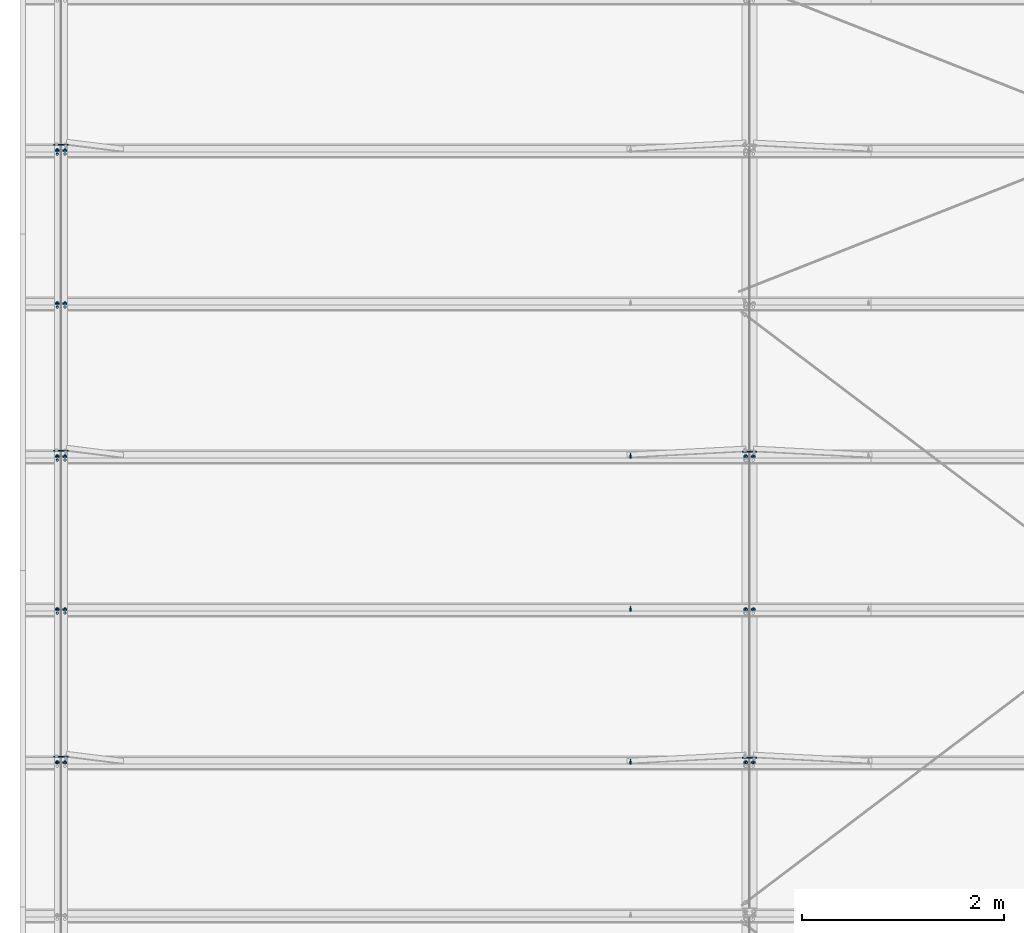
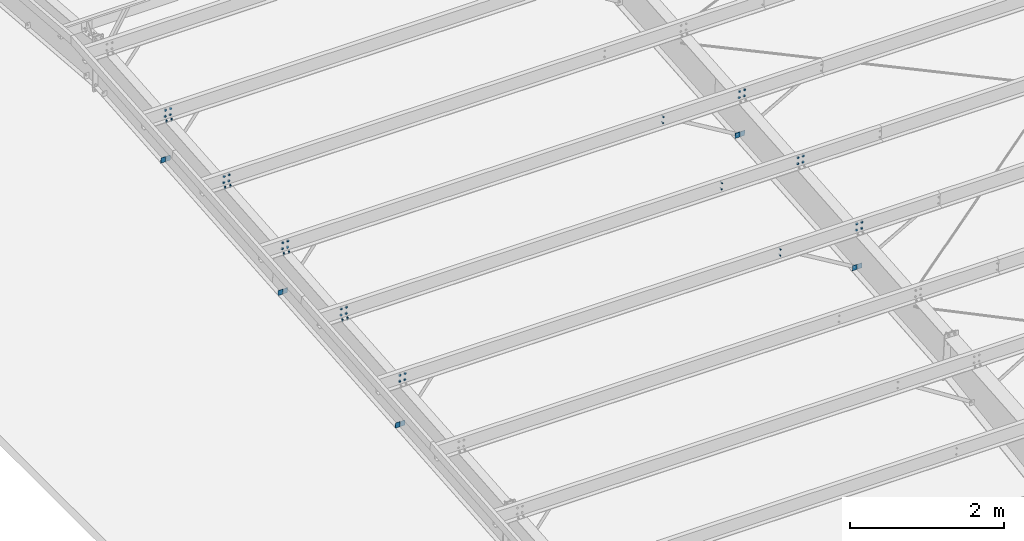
# One storey, part 69 of 185: 23 mechanical fasteners, 10 discrete accessories, 10 elements without a shape of their own.
"""IFC2X3 building model written with IfcOpenShell, lengths in millimetres."""

from ifc_helpers import new_model, si_unit, frame, origin_with_axes, origin_2d_with_axis, place, context, subcontext, project, spatial, polyline, rectangle, circle, outline, extrude, source, transform, mapped, material, type_object, element, aggregate, save


model = new_model("IFC2X3")

# Units and contexts
model_context = context("Model", 3, precision=1e-05, world=origin_with_axes())
body_context = subcontext(model_context, "Body", "Model", "MODEL_VIEW")
ifc_project = project(units=[si_unit("LENGTHUNIT", "METRE", prefix="MILLI"), si_unit("AREAUNIT", "SQUARE_METRE"), si_unit("VOLUMEUNIT", "CUBIC_METRE"), si_unit("MASSUNIT", "GRAM", prefix="KILO"), si_unit("TIMEUNIT", "SECOND"), si_unit("PLANEANGLEUNIT", "RADIAN"), si_unit("SOLIDANGLEUNIT", "STERADIAN"), si_unit("THERMODYNAMICTEMPERATUREUNIT", "DEGREE_CELSIUS"), si_unit("LUMINOUSINTENSITYUNIT", "LUMEN")], contexts=[model_context])

# Site, building, storey
site_placement = place(None, origin_with_axes())
site = spatial("IfcSite", under=ifc_project, at=site_placement, Name="Undefined", CompositionType="ELEMENT")
building_placement = place(site_placement, origin_with_axes())
building = spatial("IfcBuilding", under=site, at=building_placement, Name="Undefined", CompositionType="ELEMENT")
storey_placement = place(building_placement, origin_with_axes())
storey = spatial("IfcBuildingStorey", under=building, at=storey_placement, Name="Undefined", CompositionType="ELEMENT", Elevation=0.0)

# Assembly, mechanical fasteners
assembly_1_placement = place(storey_placement, origin_with_axes())
assembly_1 = element("IfcElementAssembly", 1, at=assembly_1_placement, inside=storey, Name="Steel Assembly", AssemblyPlace="NOTDEFINED", PredefinedType="RIGID_FRAME")
ifc_material_1 = material(Name="Undefined")
discrete_accessory_type_1 = type_object("IfcDiscreteAccessoryType", Name="Bolt assembly")
shared_shape_1 = source(origin_with_axes(), body_context, "Body", "SweptSolid", [
    extrude(circle(Radius=7.14374971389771, at=origin_2d_with_axis()), frame((0.0, -1.59000001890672, 0.0), z_axis=(0.0, 1.0, 0.0), x_axis=(1.0, 0.0, 0.0)), (0.0, 0.0, 1.0), 3.3),
    extrude(circle(Radius=13.4937496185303, at=origin_2d_with_axis()), frame((0.0, -5.5587500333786, 0.0), z_axis=(0.0, 1.0, 0.0), x_axis=(1.0, 0.0, 0.0)), (0.0, 0.0, 1.0), 4.0),
    extrude(circle(Radius=22.2250003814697, at=origin_2d_with_axis()), frame((0.0, 1.5900000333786, 0.0), z_axis=(0.0, 1.0, 0.0), x_axis=(1.0, 0.0, 0.0)), (0.0, 0.0, 1.0), 7.9),
    extrude(outline(polyline([(12.8316099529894, 0.0), (6.4158049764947, 11.1125001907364), (-6.4158049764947, 11.1125001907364), (-12.8316099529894, 0.0), (-6.4158049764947, -11.1125001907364), (6.4158049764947, -11.1125001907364), (12.8316099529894, 0.0)])), frame((0.0, 9.5275000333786, 0.0), z_axis=(0.0, 1.0, 0.0), x_axis=(1.0, 0.0, 0.0)), (0.0, 0.0, 1.0), 12.3),
])
mechanical_fastener_1_placement = place(assembly_1_placement, frame((444.500000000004, 14183.73625208, 7227.00193969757), z_axis=(1.0, 0.0, 0.0), x_axis=(0.0, 0.0830454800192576, -0.996545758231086)))
mechanical_fastener_1 = element("IfcMechanicalFastener", 2, at=mechanical_fastener_1_placement, type_object=discrete_accessory_type_1, material=ifc_material_1, Name="Bolt assembly", NominalDiameter=12.6999998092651, NominalLength=38.0999984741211, context=body_context, shape_type="MappedRepresentation", body=[
    mapped(shared_shape_1, transform((0.0, 0.0, 0.0))),
    mapped(shared_shape_1, transform((101.599998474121, 0.0, 0.0))),
])
mechanical_fastener_2_placement = place(assembly_1_placement, frame((368.300000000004, 14183.73625208, 7227.00193969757), z_axis=(1.0, 0.0, 0.0), x_axis=(0.0, 0.0830454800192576, -0.996545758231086)))
mechanical_fastener_2 = element("IfcMechanicalFastener", 3, at=mechanical_fastener_2_placement, type_object=discrete_accessory_type_1, material=ifc_material_1, Name="Bolt assembly", NominalDiameter=12.6999998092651, NominalLength=38.0999984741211, context=body_context, shape_type="MappedRepresentation", body=[
    mapped(shared_shape_1, transform((0.0, 0.0, 0.0))),
    mapped(shared_shape_1, transform((101.599998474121, 0.0, 0.0))),
])

assembly_2_placement = place(storey_placement, origin_with_axes())
assembly_2 = element("IfcElementAssembly", 4, at=assembly_2_placement, inside=storey, Name="Steel Assembly", AssemblyPlace="NOTDEFINED", PredefinedType="RIGID_FRAME")
mechanical_fastener_3_placement = place(assembly_2_placement, frame((444.500000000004, 12665.0005165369, 7100.44062814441), z_axis=(1.0, 0.0, 0.0), x_axis=(0.0, 0.0830454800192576, -0.996545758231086)))
mechanical_fastener_3 = element("IfcMechanicalFastener", 5, at=mechanical_fastener_3_placement, type_object=discrete_accessory_type_1, material=ifc_material_1, Name="Bolt assembly", NominalDiameter=12.6999998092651, NominalLength=38.0999984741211, context=body_context, shape_type="MappedRepresentation", body=[
    mapped(shared_shape_1, transform((0.0, 0.0, 0.0))),
    mapped(shared_shape_1, transform((101.599998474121, 0.0, 0.0))),
])
mechanical_fastener_4_placement = place(assembly_2_placement, frame((368.300000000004, 12665.0005165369, 7100.44062814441), z_axis=(1.0, 0.0, 0.0), x_axis=(0.0, 0.0830454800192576, -0.996545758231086)))
mechanical_fastener_4 = element("IfcMechanicalFastener", 6, at=mechanical_fastener_4_placement, type_object=discrete_accessory_type_1, material=ifc_material_1, Name="Bolt assembly", NominalDiameter=12.6999998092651, NominalLength=38.0999984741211, context=body_context, shape_type="MappedRepresentation", body=[
    mapped(shared_shape_1, transform((0.0, 0.0, 0.0))),
    mapped(shared_shape_1, transform((101.599998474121, 0.0, 0.0))),
])

assembly_3_placement = place(storey_placement, origin_with_axes())
assembly_3 = element("IfcElementAssembly", 7, at=assembly_3_placement, inside=storey, Name="Steel Assembly", AssemblyPlace="NOTDEFINED", PredefinedType="RIGID_FRAME")
mechanical_fastener_5_placement = place(assembly_3_placement, frame((444.500000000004, 11146.2647809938, 6973.87931659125), z_axis=(1.0, 0.0, 0.0), x_axis=(0.0, 0.0830454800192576, -0.996545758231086)))
mechanical_fastener_5 = element("IfcMechanicalFastener", 8, at=mechanical_fastener_5_placement, type_object=discrete_accessory_type_1, material=ifc_material_1, Name="Bolt assembly", NominalDiameter=12.6999998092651, NominalLength=38.0999984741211, context=body_context, shape_type="MappedRepresentation", body=[
    mapped(shared_shape_1, transform((0.0, 0.0, 0.0))),
    mapped(shared_shape_1, transform((101.599998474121, 0.0, 0.0))),
])
mechanical_fastener_6_placement = place(assembly_3_placement, frame((368.300000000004, 11146.2647809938, 6973.87931659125), z_axis=(1.0, 0.0, 0.0), x_axis=(0.0, 0.0830454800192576, -0.996545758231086)))
mechanical_fastener_6 = element("IfcMechanicalFastener", 9, at=mechanical_fastener_6_placement, type_object=discrete_accessory_type_1, material=ifc_material_1, Name="Bolt assembly", NominalDiameter=12.6999998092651, NominalLength=38.0999984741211, context=body_context, shape_type="MappedRepresentation", body=[
    mapped(shared_shape_1, transform((0.0, 0.0, 0.0))),
    mapped(shared_shape_1, transform((101.599998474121, 0.0, 0.0))),
])

assembly_4_placement = place(storey_placement, origin_with_axes())
assembly_4 = element("IfcElementAssembly", 10, at=assembly_4_placement, inside=storey, Name="Steel Assembly", AssemblyPlace="NOTDEFINED", PredefinedType="RIGID_FRAME")
mechanical_fastener_7_placement = place(assembly_4_placement, frame((444.500000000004, 9627.52904545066, 6847.31800503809), z_axis=(1.0, 0.0, 0.0), x_axis=(0.0, 0.0830454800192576, -0.996545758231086)))
mechanical_fastener_7 = element("IfcMechanicalFastener", 11, at=mechanical_fastener_7_placement, type_object=discrete_accessory_type_1, material=ifc_material_1, Name="Bolt assembly", NominalDiameter=12.6999998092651, NominalLength=38.0999984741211, context=body_context, shape_type="MappedRepresentation", body=[
    mapped(shared_shape_1, transform((0.0, 0.0, 0.0))),
    mapped(shared_shape_1, transform((101.599998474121, 0.0, 0.0))),
])
mechanical_fastener_8_placement = place(assembly_4_placement, frame((368.300000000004, 9627.52904545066, 6847.31800503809), z_axis=(1.0, 0.0, 0.0), x_axis=(0.0, 0.0830454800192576, -0.996545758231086)))
mechanical_fastener_8 = element("IfcMechanicalFastener", 12, at=mechanical_fastener_8_placement, type_object=discrete_accessory_type_1, material=ifc_material_1, Name="Bolt assembly", NominalDiameter=12.6999998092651, NominalLength=38.0999984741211, context=body_context, shape_type="MappedRepresentation", body=[
    mapped(shared_shape_1, transform((0.0, 0.0, 0.0))),
    mapped(shared_shape_1, transform((101.599998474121, 0.0, 0.0))),
])

assembly_5_placement = place(storey_placement, origin_with_axes())
assembly_5 = element("IfcElementAssembly", 13, at=assembly_5_placement, inside=storey, Name="Steel Assembly", AssemblyPlace="NOTDEFINED", PredefinedType="RIGID_FRAME")
mechanical_fastener_9_placement = place(assembly_5_placement, frame((444.500000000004, 8108.79330990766, 6720.75669348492), z_axis=(1.0, 0.0, 0.0), x_axis=(0.0, 0.0830454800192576, -0.996545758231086)))
mechanical_fastener_9 = element("IfcMechanicalFastener", 14, at=mechanical_fastener_9_placement, type_object=discrete_accessory_type_1, material=ifc_material_1, Name="Bolt assembly", NominalDiameter=12.6999998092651, NominalLength=38.0999984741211, context=body_context, shape_type="MappedRepresentation", body=[
    mapped(shared_shape_1, transform((0.0, 0.0, 0.0))),
    mapped(shared_shape_1, transform((101.599998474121, 0.0, 0.0))),
])
mechanical_fastener_10_placement = place(assembly_5_placement, frame((368.300000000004, 8108.79330990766, 6720.75669348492), z_axis=(1.0, 0.0, 0.0), x_axis=(0.0, 0.0830454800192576, -0.996545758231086)))
mechanical_fastener_10 = element("IfcMechanicalFastener", 15, at=mechanical_fastener_10_placement, type_object=discrete_accessory_type_1, material=ifc_material_1, Name="Bolt assembly", NominalDiameter=12.6999998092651, NominalLength=38.0999984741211, context=body_context, shape_type="MappedRepresentation", body=[
    mapped(shared_shape_1, transform((0.0, 0.0, 0.0))),
    mapped(shared_shape_1, transform((101.599998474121, 0.0, 0.0))),
])

# Mechanical fastener
mechanical_fastener_11_placement = place(assembly_3_placement, frame((7277.1, 11146.2647809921, 6973.87931658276), z_axis=(1.0, 0.0, 0.0), x_axis=(0.0, 0.0830454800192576, -0.996545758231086)))
mechanical_fastener_11 = element("IfcMechanicalFastener", 16, at=mechanical_fastener_11_placement, type_object=discrete_accessory_type_1, material=ifc_material_1, Name="Bolt assembly", NominalDiameter=12.6999998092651, NominalLength=38.0999984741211, context=body_context, shape_type="MappedRepresentation", body=[
    mapped(shared_shape_1, transform((0.0, 0.0, 0.0))),
    mapped(shared_shape_1, transform((101.599998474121, 0.0, 0.0))),
])

# Assembly, mechanical fastener
assembly_6_placement = place(storey_placement, origin_with_axes())
assembly_6 = element("IfcElementAssembly", 17, at=assembly_6_placement, inside=storey, Name="Steel Assembly", AssemblyPlace="NOTDEFINED", PredefinedType="RIGID_FRAME")
mechanical_fastener_12_placement = place(assembly_6_placement, frame((7200.9, 11146.2647809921, 6973.87931658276), z_axis=(1.0, 0.0, 0.0), x_axis=(0.0, 0.0830454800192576, -0.996545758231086)))
mechanical_fastener_12 = element("IfcMechanicalFastener", 18, at=mechanical_fastener_12_placement, type_object=discrete_accessory_type_1, material=ifc_material_1, Name="Bolt assembly", NominalDiameter=12.6999998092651, NominalLength=38.0999984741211, context=body_context, shape_type="MappedRepresentation", body=[
    mapped(shared_shape_1, transform((0.0, 0.0, 0.0))),
    mapped(shared_shape_1, transform((101.599998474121, 0.0, 0.0))),
])

# Mechanical fastener
mechanical_fastener_13_placement = place(assembly_4_placement, frame((7277.1, 9627.52904544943, 6847.31800503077), z_axis=(1.0, 0.0, 0.0), x_axis=(0.0, 0.0830454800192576, -0.996545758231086)))
mechanical_fastener_13 = element("IfcMechanicalFastener", 19, at=mechanical_fastener_13_placement, type_object=discrete_accessory_type_1, material=ifc_material_1, Name="Bolt assembly", NominalDiameter=12.6999998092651, NominalLength=38.0999984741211, context=body_context, shape_type="MappedRepresentation", body=[
    mapped(shared_shape_1, transform((0.0, 0.0, 0.0))),
    mapped(shared_shape_1, transform((101.599998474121, 0.0, 0.0))),
])

# Assembly, mechanical fastener
assembly_7_placement = place(storey_placement, origin_with_axes())
assembly_7 = element("IfcElementAssembly", 20, at=assembly_7_placement, inside=storey, Name="Steel Assembly", AssemblyPlace="NOTDEFINED", PredefinedType="RIGID_FRAME")
mechanical_fastener_14_placement = place(assembly_7_placement, frame((7200.9, 9627.52904544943, 6847.31800503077), z_axis=(1.0, 0.0, 0.0), x_axis=(0.0, 0.0830454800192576, -0.996545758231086)))
mechanical_fastener_14 = element("IfcMechanicalFastener", 21, at=mechanical_fastener_14_placement, type_object=discrete_accessory_type_1, material=ifc_material_1, Name="Bolt assembly", NominalDiameter=12.6999998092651, NominalLength=38.0999984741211, context=body_context, shape_type="MappedRepresentation", body=[
    mapped(shared_shape_1, transform((0.0, 0.0, 0.0))),
    mapped(shared_shape_1, transform((101.599998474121, 0.0, 0.0))),
])

# Mechanical fastener
mechanical_fastener_15_placement = place(assembly_5_placement, frame((7277.1, 8108.79330990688, 6720.75669347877), z_axis=(1.0, 0.0, 0.0), x_axis=(0.0, 0.0830454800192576, -0.996545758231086)))
mechanical_fastener_15 = element("IfcMechanicalFastener", 22, at=mechanical_fastener_15_placement, type_object=discrete_accessory_type_1, material=ifc_material_1, Name="Bolt assembly", NominalDiameter=12.6999998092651, NominalLength=38.0999984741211, context=body_context, shape_type="MappedRepresentation", body=[
    mapped(shared_shape_1, transform((0.0, 0.0, 0.0))),
    mapped(shared_shape_1, transform((101.599998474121, 0.0, 0.0))),
])

aggregate(assembly_5, [mechanical_fastener_9, mechanical_fastener_10, mechanical_fastener_15])

# Assembly, mechanical fastener
assembly_8_placement = place(storey_placement, origin_with_axes())
assembly_8 = element("IfcElementAssembly", 23, at=assembly_8_placement, inside=storey, Name="Steel Assembly", AssemblyPlace="NOTDEFINED", PredefinedType="RIGID_FRAME")
mechanical_fastener_16_placement = place(assembly_8_placement, frame((7200.9, 8108.79330990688, 6720.75669347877), z_axis=(1.0, 0.0, 0.0), x_axis=(0.0, 0.0830454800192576, -0.996545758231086)))
mechanical_fastener_16 = element("IfcMechanicalFastener", 24, at=mechanical_fastener_16_placement, type_object=discrete_accessory_type_1, material=ifc_material_1, Name="Bolt assembly", NominalDiameter=12.6999998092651, NominalLength=38.0999984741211, context=body_context, shape_type="MappedRepresentation", body=[
    mapped(shared_shape_1, transform((0.0, 0.0, 0.0))),
    mapped(shared_shape_1, transform((101.599998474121, 0.0, 0.0))),
])

# Assembly, discrete accessories
assembly_9_placement = place(storey_placement, origin_with_axes())
assembly_9 = element("IfcElementAssembly", 25, at=assembly_9_placement, inside=storey, Name="Steel Assembly", AssemblyPlace="NOTDEFINED", PredefinedType="RIGID_FRAME")
ifc_material_2 = material(Name="STEEL/55")
discrete_accessory_type_2 = type_object("IfcDiscreteAccessoryType", Name="FLANGE BRACE FLIP")
discrete_accessory_1_placement = place(assembly_9_placement, frame((408.108150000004, 14250.7200303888, 6402.62955636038), z_axis=(0.0, -0.0830454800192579, 0.996545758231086), x_axis=(1.0, 0.0, 0.0)))
discrete_accessory_1 = element("IfcDiscreteAccessory", 26, at=discrete_accessory_1_placement, type_object=discrete_accessory_type_2, material=ifc_material_2, Name="FLANGE BRACE FLIP", ObjectType="PL1/8\"X2 3/4\"", context=body_context, shape_type="SweptSolid", body=[
    extrude(rectangle(XDim=3.416, YDim=85.725, at=origin_2d_with_axis()), frame((69.8499999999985, 0.0, 0.0), z_axis=(-1.0, 0.0, 0.0), x_axis=(0.0, -1.0, 0.0)), (0.0, 0.0, 1.0), 69.9),
])
discrete_accessory_2_placement = place(assembly_9_placement, frame((404.691850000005, 14250.7200303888, 6402.62955636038), z_axis=(0.0, -0.0830454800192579, 0.996545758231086), x_axis=(-1.0, 0.0, 0.0)))
discrete_accessory_2 = element("IfcDiscreteAccessory", 27, at=discrete_accessory_2_placement, type_object=discrete_accessory_type_2, material=ifc_material_2, Name="FLANGE BRACE FLIP", ObjectType="PL1/8\"X2 3/4\"", context=body_context, shape_type="SweptSolid", body=[
    extrude(rectangle(XDim=3.416, YDim=85.725, at=origin_2d_with_axis()), frame((69.8499999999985, 0.0, 0.0), z_axis=(-1.0, 0.0, 0.0), x_axis=(0.0, -1.0, 0.0)), (0.0, 0.0, 1.0), 69.9),
])
discrete_accessory_3_placement = place(assembly_9_placement, frame((408.108150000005, 11213.2485592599, 6149.50693376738), z_axis=(0.0, -0.0830454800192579, 0.996545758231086), x_axis=(1.0, 0.0, 0.0)))
discrete_accessory_3 = element("IfcDiscreteAccessory", 28, at=discrete_accessory_3_placement, type_object=discrete_accessory_type_2, material=ifc_material_2, Name="FLANGE BRACE FLIP", ObjectType="PL1/8\"X2 3/4\"", context=body_context, shape_type="SweptSolid", body=[
    extrude(rectangle(XDim=3.416, YDim=85.725, at=origin_2d_with_axis()), frame((69.8499999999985, 0.0, 0.0), z_axis=(-1.0, 0.0, 0.0), x_axis=(0.0, -1.0, 0.0)), (0.0, 0.0, 1.0), 69.8),
])
discrete_accessory_4_placement = place(assembly_9_placement, frame((404.691850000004, 11213.2485592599, 6149.50693376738), z_axis=(0.0, -0.0830454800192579, 0.996545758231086), x_axis=(-1.0, 0.0, 0.0)))
discrete_accessory_4 = element("IfcDiscreteAccessory", 29, at=discrete_accessory_4_placement, type_object=discrete_accessory_type_2, material=ifc_material_2, Name="FLANGE BRACE FLIP", ObjectType="PL1/8\"X2 3/4\"", context=body_context, shape_type="SweptSolid", body=[
    extrude(rectangle(XDim=3.416, YDim=85.725, at=origin_2d_with_axis()), frame((69.8499999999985, 0.0, 0.0), z_axis=(-1.0, 0.0, 0.0), x_axis=(0.0, -1.0, 0.0)), (0.0, 0.0, 1.0), 69.8),
])
discrete_accessory_5_placement = place(assembly_9_placement, frame((408.108150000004, 8175.77708813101, 5896.3843111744), z_axis=(0.0, -0.0830454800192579, 0.996545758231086), x_axis=(1.0, 0.0, 0.0)))
discrete_accessory_5 = element("IfcDiscreteAccessory", 30, at=discrete_accessory_5_placement, type_object=discrete_accessory_type_2, material=ifc_material_2, Name="FLANGE BRACE FLIP", ObjectType="PL1/8\"X2 3/4\"", context=body_context, shape_type="SweptSolid", body=[
    extrude(rectangle(XDim=3.416, YDim=85.725, at=origin_2d_with_axis()), frame((69.8499999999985, 0.0, 0.0), z_axis=(-1.0, 0.0, 0.0), x_axis=(0.0, -1.0, 0.0)), (0.0, 0.0, 1.0), 69.8),
])
discrete_accessory_6_placement = place(assembly_9_placement, frame((404.691850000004, 8175.77708813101, 5896.3843111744), z_axis=(0.0, -0.0830454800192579, 0.996545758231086), x_axis=(-1.0, 0.0, 0.0)))
discrete_accessory_6 = element("IfcDiscreteAccessory", 31, at=discrete_accessory_6_placement, type_object=discrete_accessory_type_2, material=ifc_material_2, Name="FLANGE BRACE FLIP", ObjectType="PL1/8\"X2 3/4\"", context=body_context, shape_type="SweptSolid", body=[
    extrude(rectangle(XDim=3.416, YDim=85.725, at=origin_2d_with_axis()), frame((69.8499999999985, 0.0, 0.0), z_axis=(-1.0, 0.0, 0.0), x_axis=(0.0, -1.0, 0.0)), (0.0, 0.0, 1.0), 69.8),
])
aggregate(assembly_9, [discrete_accessory_1, discrete_accessory_2, discrete_accessory_3, discrete_accessory_4, discrete_accessory_5, discrete_accessory_6])

assembly_10_placement = place(storey_placement, origin_with_axes())
assembly_10 = element("IfcElementAssembly", 32, at=assembly_10_placement, inside=storey, Name="Steel Assembly", AssemblyPlace="NOTDEFINED", PredefinedType="RIGID_FRAME")
discrete_accessory_7_placement = place(assembly_10_placement, frame((7240.70815, 11204.9440275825, 6249.16131385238), z_axis=(0.0, -0.0830454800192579, 0.996545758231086), x_axis=(1.0, 0.0, 0.0)))
discrete_accessory_7 = element("IfcDiscreteAccessory", 33, at=discrete_accessory_7_placement, type_object=discrete_accessory_type_2, material=ifc_material_2, Name="FLANGE BRACE FLIP", ObjectType="PL1/8\"X2 3/4\"", context=body_context, shape_type="SweptSolid", body=[
    extrude(rectangle(XDim=3.416, YDim=85.725, at=origin_2d_with_axis()), frame((69.8499999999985, 0.0, 0.0), z_axis=(-1.0, 0.0, 0.0), x_axis=(0.0, -1.0, 0.0)), (0.0, 0.0, 1.0), 69.9),
])
discrete_accessory_8_placement = place(assembly_10_placement, frame((7237.29185, 11204.9440275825, 6249.16131385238), z_axis=(0.0, -0.0830454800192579, 0.996545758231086), x_axis=(-1.0, 0.0, 0.0)))
discrete_accessory_8 = element("IfcDiscreteAccessory", 34, at=discrete_accessory_8_placement, type_object=discrete_accessory_type_2, material=ifc_material_2, Name="FLANGE BRACE FLIP", ObjectType="PL1/8\"X2 3/4\"", context=body_context, shape_type="SweptSolid", body=[
    extrude(rectangle(XDim=3.416, YDim=85.725, at=origin_2d_with_axis()), frame((69.8499999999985, 0.0, 0.0), z_axis=(-1.0, 0.0, 0.0), x_axis=(0.0, -1.0, 0.0)), (0.0, 0.0, 1.0), 69.9),
])
discrete_accessory_9_placement = place(assembly_10_placement, frame((7240.70815, 8167.47255645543, 5996.03869125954), z_axis=(0.0, -0.0830454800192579, 0.996545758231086), x_axis=(1.0, 0.0, 0.0)))
discrete_accessory_9 = element("IfcDiscreteAccessory", 35, at=discrete_accessory_9_placement, type_object=discrete_accessory_type_2, material=ifc_material_2, Name="FLANGE BRACE FLIP", ObjectType="PL1/8\"X2 3/4\"", context=body_context, shape_type="SweptSolid", body=[
    extrude(rectangle(XDim=3.416, YDim=85.725, at=origin_2d_with_axis()), frame((69.8499999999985, 0.0, 0.0), z_axis=(-1.0, 0.0, 0.0), x_axis=(0.0, -1.0, 0.0)), (0.0, 0.0, 1.0), 69.9),
])
discrete_accessory_10_placement = place(assembly_10_placement, frame((7237.29185, 8167.47255645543, 5996.03869125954), z_axis=(0.0, -0.0830454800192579, 0.996545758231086), x_axis=(-1.0, 0.0, 0.0)))
discrete_accessory_10 = element("IfcDiscreteAccessory", 36, at=discrete_accessory_10_placement, type_object=discrete_accessory_type_2, material=ifc_material_2, Name="FLANGE BRACE FLIP", ObjectType="PL1/8\"X2 3/4\"", context=body_context, shape_type="SweptSolid", body=[
    extrude(rectangle(XDim=3.416, YDim=85.725, at=origin_2d_with_axis()), frame((69.8499999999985, 0.0, 0.0), z_axis=(-1.0, 0.0, 0.0), x_axis=(0.0, -1.0, 0.0)), (0.0, 0.0, 1.0), 69.9),
])
aggregate(assembly_10, [discrete_accessory_7, discrete_accessory_8, discrete_accessory_9, discrete_accessory_10])

# Mechanical fastener
shared_shape_2 = source(origin_with_axes(), body_context, "Body", "SweptSolid", [
    extrude(circle(Radius=7.14374971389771, at=origin_2d_with_axis()), frame((0.0, -1.69000003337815, 0.0), z_axis=(0.0, 1.0, 0.0), x_axis=(1.0, 0.0, 0.0)), (0.0, 0.0, 1.0), 3.3),
    extrude(circle(Radius=7.14374971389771, at=origin_2d_with_axis()), frame((0.0, -1.4900000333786, 0.0), z_axis=(0.0, 1.0, 0.0), x_axis=(1.0, 0.0, 0.0)), (0.0, 0.0, 1.0), 3.2),
    extrude(outline(polyline([(10.9985221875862, 0.0), (5.4992610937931, 9.52499961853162), (-5.4992610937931, 9.52499961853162), (-10.9985221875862, 0.0), (-5.4992610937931, -9.52499961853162), (5.4992610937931, -9.52499961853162), (10.9985221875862, 0.0)])), frame((0.0, -11.1149996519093, 0.0), z_axis=(0.0, 1.0, 0.0), x_axis=(1.0, 0.0, 0.0)), (0.0, 0.0, 1.0), 9.5),
    extrude(circle(Radius=6.34999990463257, at=origin_2d_with_axis()), frame((0.0, -1.59000001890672, 0.0), z_axis=(0.0, 1.0, 0.0), x_axis=(1.0, 0.0, 0.0)), (0.0, 0.0, 1.0), 38.1),
    extrude(outline(polyline([(12.8316099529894, 0.0), (6.4158049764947, 11.1125001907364), (-6.4158049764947, 11.1125001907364), (-12.8316099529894, 0.0), (-6.4158049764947, -11.1125001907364), (6.4158049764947, -11.1125001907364), (12.8316099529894, 0.0)])), frame((0.0, 1.5900000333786, 0.0), z_axis=(0.0, 1.0, 0.0), x_axis=(1.0, 0.0, 0.0)), (0.0, 0.0, 1.0), 12.3),
])
mechanical_fastener_17_placement = place(assembly_8_placement, frame((6057.9, 8108.79330990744, 6720.75669347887), z_axis=(1.0, 0.0, 0.0), x_axis=(0.0, 0.0830454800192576, -0.996545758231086)))
mechanical_fastener_17 = element("IfcMechanicalFastener", 37, at=mechanical_fastener_17_placement, type_object=discrete_accessory_type_1, material=ifc_material_1, Name="Bolt assembly", NominalDiameter=12.6999998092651, NominalLength=38.0999984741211, context=body_context, shape_type="MappedRepresentation", body=[
    mapped(shared_shape_2, transform((0.0, 0.0, 0.0))),
    mapped(shared_shape_2, transform((101.599998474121, 0.0, 0.0))),
])

aggregate(assembly_8, [mechanical_fastener_17, mechanical_fastener_16])

mechanical_fastener_18_placement = place(assembly_7_placement, frame((6057.9, 9627.52904545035, 6847.31800503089), z_axis=(1.0, 0.0, 0.0), x_axis=(0.0, 0.0830454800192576, -0.996545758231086)))
mechanical_fastener_18 = element("IfcMechanicalFastener", 38, at=mechanical_fastener_18_placement, type_object=discrete_accessory_type_1, material=ifc_material_1, Name="Bolt assembly", NominalDiameter=12.6999998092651, NominalLength=38.0999984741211, context=body_context, shape_type="MappedRepresentation", body=[
    mapped(shared_shape_2, transform((0.0, 0.0, 0.0))),
    mapped(shared_shape_2, transform((101.599998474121, 0.0, 0.0))),
])

aggregate(assembly_7, [mechanical_fastener_18, mechanical_fastener_14])

mechanical_fastener_19_placement = place(assembly_6_placement, frame((6057.9, 11146.2647809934, 6973.87931658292), z_axis=(1.0, 0.0, 0.0), x_axis=(0.0, 0.0830454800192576, -0.996545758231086)))
mechanical_fastener_19 = element("IfcMechanicalFastener", 39, at=mechanical_fastener_19_placement, type_object=discrete_accessory_type_1, material=ifc_material_1, Name="Bolt assembly", NominalDiameter=12.6999998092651, NominalLength=38.0999984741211, context=body_context, shape_type="MappedRepresentation", body=[
    mapped(shared_shape_2, transform((0.0, 0.0, 0.0))),
    mapped(shared_shape_2, transform((101.599998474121, 0.0, 0.0))),
])

aggregate(assembly_6, [mechanical_fastener_19, mechanical_fastener_12])

shared_shape_3 = source(origin_with_axes(), body_context, "Body", "SweptSolid", [
    extrude(circle(Radius=7.14374971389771, at=origin_2d_with_axis()), frame((0.0, -0.1, 0.0), z_axis=(0.0, 1.0, 0.0), x_axis=(1.0, 0.0, 0.0)), (0.0, 0.0, 1.0), 6.5),
    extrude(circle(Radius=7.14374971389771, at=origin_2d_with_axis()), frame((0.0, -3.08000006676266, 0.0), z_axis=(0.0, 1.0, 0.0), x_axis=(1.0, 0.0, 0.0)), (0.0, 0.0, 1.0), 3.2),
    extrude(outline(polyline([(10.9985221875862, 0.0), (5.4992610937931, 9.52499961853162), (-5.4992610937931, 9.52499961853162), (-10.9985221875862, 0.0), (-5.4992610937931, -9.52499961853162), (5.4992610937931, -9.52499961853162), (10.9985221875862, 0.0)])), frame((0.0, -16.6737496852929, 0.0), z_axis=(0.0, 1.0, 0.0), x_axis=(1.0, 0.0, 0.0)), (0.0, 0.0, 1.0), 9.5),
    extrude(circle(Radius=6.34999990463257, at=origin_2d_with_axis()), frame((0.0, -7.14875006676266, 0.0), z_axis=(0.0, 1.0, 0.0), x_axis=(1.0, 0.0, 0.0)), (0.0, 0.0, 1.0), 38.1),
    extrude(circle(Radius=13.4937496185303, at=origin_2d_with_axis()), frame((0.0, -7.14875006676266, 0.0), z_axis=(0.0, 1.0, 0.0), x_axis=(1.0, 0.0, 0.0)), (0.0, 0.0, 1.0), 4.0),
    extrude(outline(polyline([(12.8316099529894, 0.0), (6.4158049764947, 11.1125001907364), (-6.4158049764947, 11.1125001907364), (-12.8316099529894, 0.0), (-6.4158049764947, -11.1125001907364), (6.4158049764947, -11.1125001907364), (12.8316099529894, 0.0)])), frame((0.0, 6.35000000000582, 0.0), z_axis=(0.0, 1.0, 0.0), x_axis=(1.0, 0.0, 0.0)), (0.0, 0.0, 1.0), 12.3),
])
mechanical_fastener_20_placement = place(assembly_1_placement, frame((406.400000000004, 14158.4239898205, 7071.9643333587), z_axis=(1.0, 0.0, 0.0), x_axis=(0.0, -0.996545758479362, -0.0830454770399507)))
mechanical_fastener_20 = element("IfcMechanicalFastener", 40, at=mechanical_fastener_20_placement, type_object=discrete_accessory_type_1, material=ifc_material_1, Name="Bolt assembly", NominalDiameter=12.6999998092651, NominalLength=38.0999984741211, context=body_context, shape_type="MappedRepresentation", body=[
    mapped(shared_shape_3, transform((0.0, 0.0, -38.0999984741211))),
    mapped(shared_shape_3, transform((0.0, 0.0, 38.0999984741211))),
])

aggregate(assembly_1, [mechanical_fastener_20, mechanical_fastener_1, mechanical_fastener_2])

mechanical_fastener_21_placement = place(assembly_2_placement, frame((406.400000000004, 12639.6882542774, 6945.40302180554), z_axis=(1.0, 0.0, 0.0), x_axis=(0.0, -0.996545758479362, -0.0830454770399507)))
mechanical_fastener_21 = element("IfcMechanicalFastener", 41, at=mechanical_fastener_21_placement, type_object=discrete_accessory_type_1, material=ifc_material_1, Name="Bolt assembly", NominalDiameter=12.6999998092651, NominalLength=38.0999984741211, context=body_context, shape_type="MappedRepresentation", body=[
    mapped(shared_shape_3, transform((0.0, 0.0, -38.0999984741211))),
    mapped(shared_shape_3, transform((0.0, 0.0, 38.0999984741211))),
])

aggregate(assembly_2, [mechanical_fastener_21, mechanical_fastener_3, mechanical_fastener_4])

mechanical_fastener_22_placement = place(assembly_3_placement, frame((406.400000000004, 11120.9525187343, 6818.84171025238), z_axis=(1.0, 0.0, 0.0), x_axis=(0.0, -0.996545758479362, -0.0830454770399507)))
mechanical_fastener_22 = element("IfcMechanicalFastener", 42, at=mechanical_fastener_22_placement, type_object=discrete_accessory_type_1, material=ifc_material_1, Name="Bolt assembly", NominalDiameter=12.6999998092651, NominalLength=38.0999984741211, context=body_context, shape_type="MappedRepresentation", body=[
    mapped(shared_shape_3, transform((0.0, 0.0, -38.0999984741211))),
    mapped(shared_shape_3, transform((0.0, 0.0, 38.0999984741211))),
])

aggregate(assembly_3, [mechanical_fastener_22, mechanical_fastener_5, mechanical_fastener_6, mechanical_fastener_11])

mechanical_fastener_23_placement = place(assembly_4_placement, frame((406.400000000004, 9602.21678319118, 6692.28039869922), z_axis=(1.0, 0.0, 0.0), x_axis=(0.0, -0.996545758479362, -0.0830454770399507)))
mechanical_fastener_23 = element("IfcMechanicalFastener", 43, at=mechanical_fastener_23_placement, type_object=discrete_accessory_type_1, material=ifc_material_1, Name="Bolt assembly", NominalDiameter=12.6999998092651, NominalLength=38.0999984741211, context=body_context, shape_type="MappedRepresentation", body=[
    mapped(shared_shape_3, transform((0.0, 0.0, -38.0999984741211))),
    mapped(shared_shape_3, transform((0.0, 0.0, 38.0999984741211))),
])

aggregate(assembly_4, [mechanical_fastener_23, mechanical_fastener_7, mechanical_fastener_8, mechanical_fastener_13])

save(model, "model.ifc")
